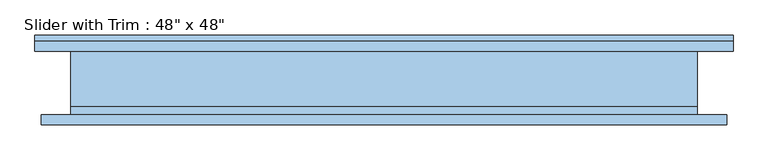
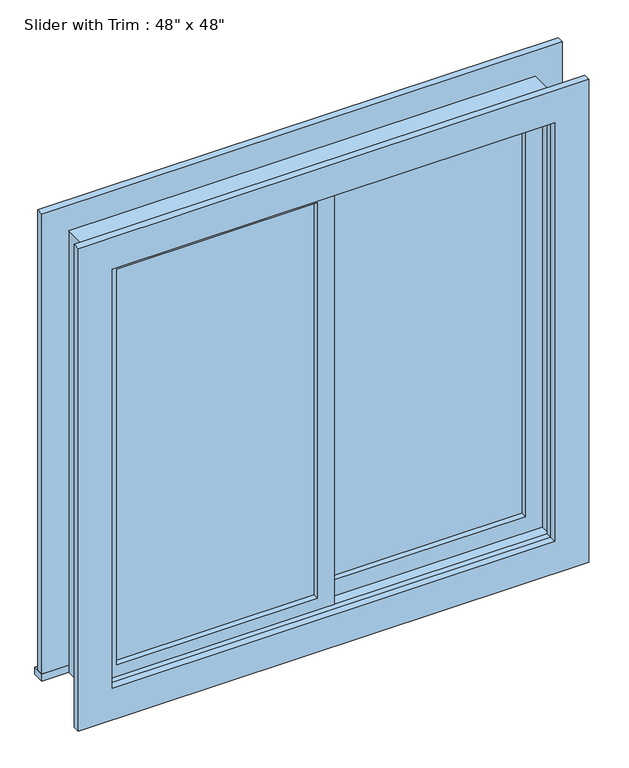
"""IFC4 building model written with IfcOpenShell, lengths in millimetres: window geometry."""

from ifc_helpers import new_model, si_unit, frame, origin, place, context, project, spatial, polyline, outline, extrude, source, transform, mapped, element, save


def window_81b49128(model_context):
    return source(origin(), model_context, "Body", "SweptSolid", [
        extrude(outline(polyline([(-546.1, -17.4625), (-22.225, -17.4625), (-22.225, -30.1625), (-546.1, -30.1625), (-546.1, -17.4625)])), frame((0.0, 0.0, 977.9), z_axis=(0.0, 0.0, 1.0), x_axis=(1.0, 0.0, 0.0)), (0.0, 0.0, 1.0), 1092.2),
        extrude(outline(polyline([(2114.55, -590.55), (933.45, -590.55), (933.45, 22.225), (2114.55, 22.225), (2114.55, -590.55)]), holes=[polyline([(2070.1, -546.1), (2070.1, -22.225), (977.9, -22.225), (977.9, -546.1), (2070.1, -546.1)])]), frame((0.0, -46.0375, 0.0), z_axis=(0.0, 1.0, 0.0), x_axis=(0.0, 0.0, 1.0)), (0.0, 0.0, 1.0), 44.45),
        extrude(outline(polyline([(-679.45, 93.6625), (679.45, 93.6625), (679.45, 61.9125), (-679.45, 61.9125), (-679.45, 93.6625)])), frame((0.0, 0.0, 914.4), z_axis=(0.0, 0.0, 1.0), x_axis=(1.0, 0.0, 0.0)), (0.0, 0.0, 1.0), 19.05),
        extrude(outline(polyline([(2114.55, -590.55), (2114.55, 590.55), (933.45, 590.55), (933.45, 679.45), (2203.45, 679.45), (2203.45, -679.45), (933.45, -679.45), (933.45, -590.55), (2114.55, -590.55)])), frame((0.0, 61.9125, 0.0), z_axis=(0.0, 1.0, 0.0), x_axis=(0.0, 0.0, 1.0)), (0.0, 0.0, 1.0), 19.05),
        extrude(outline(polyline([(2190.75, 666.75), (2190.75, -666.75), (857.25, -666.75), (857.25, 666.75), (2190.75, 666.75)]), holes=[polyline([(2101.85, 577.85), (946.15, 577.85), (946.15, -577.85), (2101.85, -577.85), (2101.85, 577.85)])]), frame((0.0, -80.9625, 0.0), z_axis=(0.0, 1.0, 0.0), x_axis=(0.0, 0.0, 1.0)), (0.0, 0.0, 1.0), 19.05),
        extrude(outline(polyline([(546.1, 14.2875), (22.225, 14.2875), (22.225, 26.9875), (546.1, 26.9875), (546.1, 14.2875)])), frame((0.0, 0.0, 977.9), z_axis=(0.0, 0.0, 1.0), x_axis=(1.0, 0.0, 0.0)), (0.0, 0.0, 1.0), 1092.2),
        extrude(outline(polyline([(2114.55, -22.225), (933.45, -22.225), (933.45, 590.55), (2114.55, 590.55), (2114.55, -22.225)]), holes=[polyline([(2070.1, 22.225), (2070.1, 546.1), (977.9, 546.1), (977.9, 22.225), (2070.1, 22.225)])]), frame((0.0, -1.5875, 0.0), z_axis=(0.0, 1.0, 0.0), x_axis=(0.0, 0.0, 1.0)), (0.0, 0.0, 1.0), 44.45),
        extrude(outline(polyline([(2133.6, -609.6), (914.4, -609.6), (914.4, 609.6), (2133.6, 609.6), (2133.6, -609.6)]), holes=[polyline([(2101.85, -577.85), (2101.85, 577.85), (946.15, 577.85), (946.15, -577.85), (2101.85, -577.85)])]), frame((0.0, -61.9125, 0.0), z_axis=(0.0, 1.0, 0.0), x_axis=(0.0, 0.0, 1.0)), (0.0, 0.0, 1.0), 15.875),
        extrude(outline(polyline([(2133.6, 609.6), (2133.6, -609.6), (914.4, -609.6), (914.4, 609.6), (2133.6, 609.6)]), holes=[polyline([(2114.55, 590.55), (933.45, 590.55), (933.45, -590.55), (2114.55, -590.55), (2114.55, 590.55)])]), frame((0.0, -46.0375, 0.0), z_axis=(0.0, 1.0, 0.0), x_axis=(0.0, 0.0, 1.0)), (0.0, 0.0, 1.0), 107.95),
    ])


if __name__ == "__main__":
    model = new_model("IFC4")
    model_context = context("Model", 3, world=origin())
    ifc_project = project(units=[si_unit("LENGTHUNIT", "METRE", prefix="MILLI")], contexts=[model_context])
    site = spatial("IfcSite", under=ifc_project)
    building = spatial("IfcBuilding", under=site)
    placement = place(None, origin())
    window_shape = window_81b49128(model_context)
    element("IfcWindow", 1, ObjectType="Slider with Trim : 48\" x 48\"", at=placement, inside=building, context=model_context, shape_type="MappedRepresentation", body=[
        mapped(window_shape, transform((0.0, 0.0, 0.0), x_axis=(1.0, 0.0, 0.0), y_axis=(0.0, 1.0, 0.0), z_axis=(0.0, 0.0, 1.0))),
    ])
    save(model, "model.ifc")
